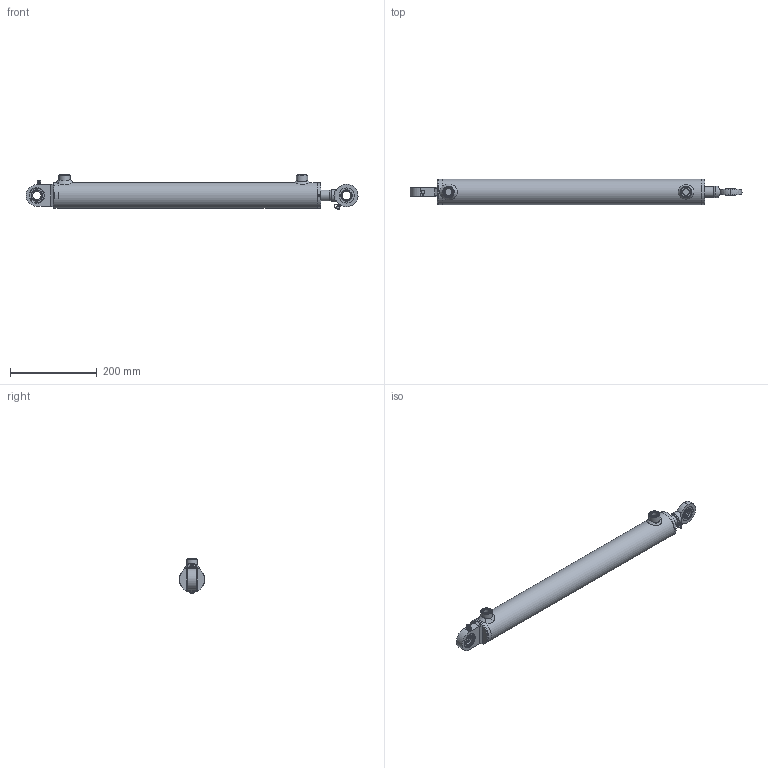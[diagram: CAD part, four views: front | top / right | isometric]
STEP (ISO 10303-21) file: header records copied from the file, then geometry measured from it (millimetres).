
FILE_DESCRIPTION( ( 'Unknown' ), '1' );
FILE_NAME( 'E:/LIBRERIA_3d/CILINDRI/HMB/HMB2250500.stp', 'Unknown', ( 'Unknown' ), ( 'Unknown' ), 'PSStep 17.0.49', 'Unknown', ' ' );
FILE_SCHEMA( ( 'AUTOMOTIVE_DESIGN { 1 0 10303 214 1 1 1 1 }' ) );
Length unit declared in the file: millimetre
Products named in the file (44): cstsf020c0; tsc20c_CORPO; AN00006001; CT00050020; CG06005025; STL2500500-oa9; Saldatura d'angolo 1-oa7; FTM2500500-oa8; CBSC220600; CSTSF020N0; CSTS020N_CORPO-oa3; CSAI002035; CSAI002035-oa4; HM02250500; Saldatura con preparazione 1-oa5; Saldatura d'angolo 1-oa6; CF00050060; CBS0600000; CDA0002015; APG0600000; SBL2520500; CSTS020C00; CGE0200000; APGR013000; CSTS020N00; CGE0200000-oa2; Assem1; Saldatura d'angolo 2-oa0; Saldatura d'angolo 3-oa1; CSCS004010
Assembly tree (31 placements, depth 4):
  Saldatura d'angolo 1-oa7
  Saldatura d'angolo 1-oa7
  Saldatura d'angolo 1-oa6
  Saldatura d'angolo 1-oa6
  Assem1
    CSCS004010
    CSTS020C00
      CGE0200000
      APGR013000
      cstsf020c0
        tsc20c_CORPO
        AN00006001
    CSTS020N00
      CGE0200000-oa2
      APGR013000
      CSTSF020N0
        AN00006001
        CSTS020N_CORPO-oa3
        CSAI002035
        CSAI002035-oa4
    HM02250500
      Saldatura con preparazione 1-oa5
      Saldatura con preparazione 1-oa5
      CF00050060
      CBS0600000
      CDA0002015
      APG0600000  x2
      SBL2520500
      CT00050020
        CT00050020
      CG06005025
        CG06005025
      STL2500500-oa9
        FTM2500500-oa8
        CBSC220600
Bounding box: 767.31 x 60 x 81.82 mm (x, y, z)
Volume: 1055801.6 mm3; surface area: 358898.6 mm2
Topology: 37 solids, 37 shells, 399 faces, 825 edges, 517 vertices
Faces by surface type: plane 160, cylinder 94, cone 48, torus 46, bspline 44, sphere 7
Full cylindrical faces by diameter (mm): 2 x4, 3 x1, 4 x3, 4.25 x2, 5 x7, 6 x2, 7 x2, 8 x2, 9 x2, 14.95 x2, 16 x2, 16.6 x2, 19.4 x1, 20 x9, 22 x2, 24.5 x1, 25 x4, 26 x2, 27 x1, 27.5 x1, 28 x1, 30 x1, 33 x2, 33.6 x1, 34 x1, 35 x9, 45 x1, 45.41 x2, 48.66 x2, 49.9 x1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
Entity records: 16124 total; most frequent: CARTESIAN_POINT 6167, DIRECTION 1442, ORIENTED_EDGE 1016, AXIS2_PLACEMENT_3D 650, EDGE_LOOP 635, FACE_OUTER_BOUND 508, EDGE_CURVE 508, VERTEX_POINT 423
